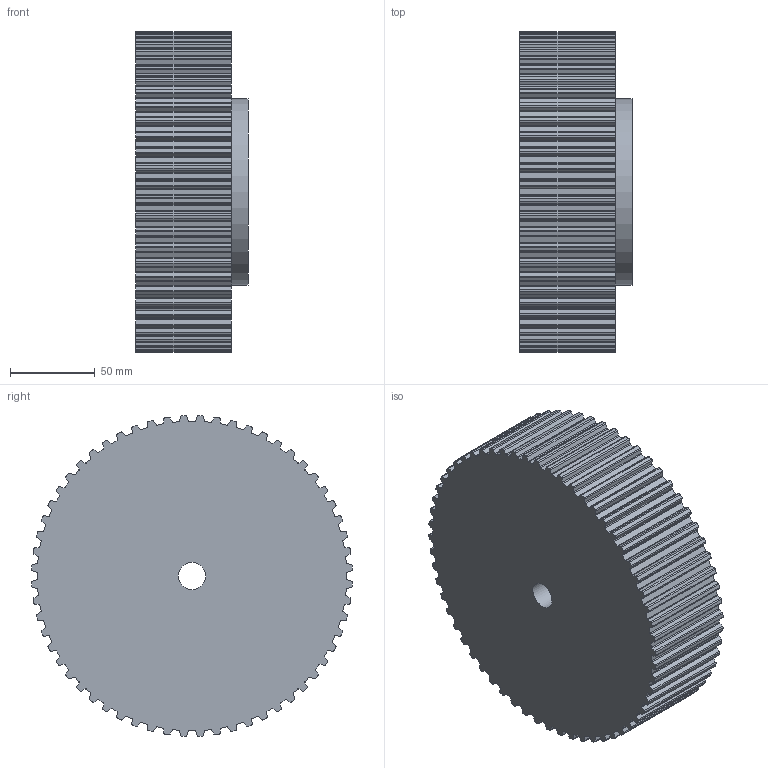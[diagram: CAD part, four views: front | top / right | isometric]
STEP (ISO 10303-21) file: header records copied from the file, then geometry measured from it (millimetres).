
FILE_DESCRIPTION( ( 'STEP AP203' ), '1' );
FILE_NAME( 'C:/Users/Stangenbergd/Documents/CAD_Step/1/16456000.stp', '2020-09-13T08:50:07', ( 'License CC BY-ND 4.0' ), ( 'CADENAS' ), ' ', 'PARTsolutions', ' ' );
FILE_SCHEMA( ( 'CONFIG_CONTROL_DESIGN' ) );
Length unit declared in the file: millimetre
Products named in the file (1): _16456000
Bounding box: 66 x 188.97 x 188.97 mm (x, y, z)
Volume: 1593836.7 mm3; surface area: 107587.7 mm2
Topology: 1 solids, 1 shells, 485 faces, 1446 edges, 964 vertices
Faces by surface type: cylinder 302, plane 183
Full cylindrical faces by diameter (mm): 16 x1, 110 x1
Entity records: 16582 total; most frequent: DIRECTION 3020, CARTESIAN_POINT 2894, ORIENTED_EDGE 2888, EDGE_CURVE 1444, AXIS2_PLACEMENT_3D 1090, VERTEX_POINT 964, LINE 840, VECTOR 840
